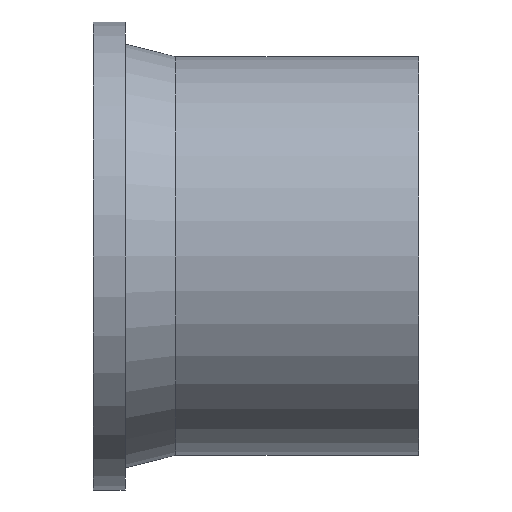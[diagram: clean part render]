
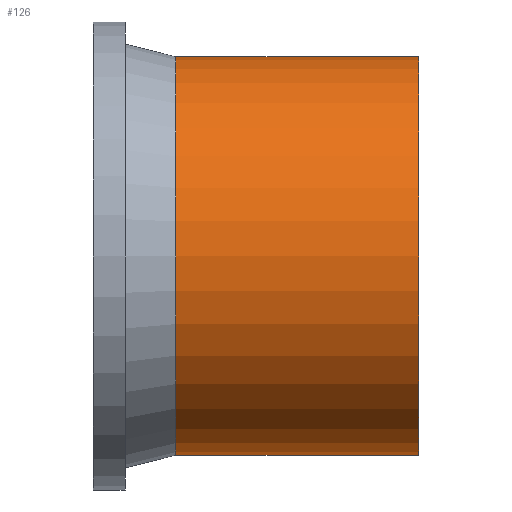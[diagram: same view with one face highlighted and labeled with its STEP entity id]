
A CAD part, front view. The second image highlights one B-rep face of the part: STEP entity #126.
In plain terms, the highlighted cylindrical face has radius 157.5 mm (diameter 315 mm), a full revolution.
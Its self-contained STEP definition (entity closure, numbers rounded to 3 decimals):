
#77=CARTESIAN_POINT('',(65.,157.5,0.));
#78=VERTEX_POINT('',#77);
#79=CARTESIAN_POINT('',(65.,0.,0.));
#80=DIRECTION('',(1.,0.,0.));
#81=DIRECTION('',(0.,1.,0.));
#82=AXIS2_PLACEMENT_3D('',#79,#80,#81);
#83=CIRCLE('',#82,157.5);
#84=EDGE_CURVE('',#78,#78,#83,.T.);
#102=CARTESIAN_POINT('',(257.,157.5,0.));
#103=VERTEX_POINT('',#102);
#104=CARTESIAN_POINT('',(257.,0.,0.));
#105=DIRECTION('',(1.,0.,0.));
#106=DIRECTION('',(0.,1.,0.));
#107=AXIS2_PLACEMENT_3D('',#104,#105,#106);
#108=CIRCLE('',#107,157.5);
#109=EDGE_CURVE('',#103,#103,#108,.T.);
#110=ORIENTED_EDGE('',*,*,#109,.F.);
#111=CARTESIAN_POINT('',(161.,157.5,0.));
#112=DIRECTION('',(1.,0.,0.));
#113=VECTOR('',#112,157.5);
#114=LINE('',#111,#113);
#115=EDGE_CURVE('',#78,#103,#114,.T.);
#116=ORIENTED_EDGE('',*,*,#115,.F.);
#117=ORIENTED_EDGE('',*,*,#84,.T.);
#118=ORIENTED_EDGE('',*,*,#115,.T.);
#119=EDGE_LOOP('',(#110,#116,#117,#118));
#120=FACE_OUTER_BOUND('',#119,.T.);
#121=CARTESIAN_POINT('',(161.,0.,0.));
#122=DIRECTION('',(1.,0.,0.));
#123=DIRECTION('',(0.,1.,0.));
#124=AXIS2_PLACEMENT_3D('',#121,#122,#123);
#125=CYLINDRICAL_SURFACE('',#124,157.5);
#126=ADVANCED_FACE('',(#120),#125,.T.);
